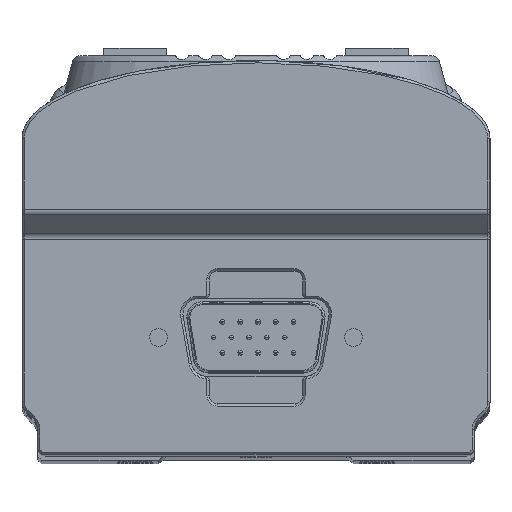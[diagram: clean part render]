
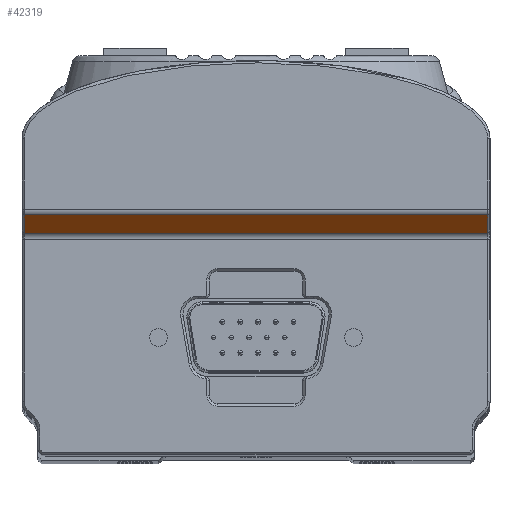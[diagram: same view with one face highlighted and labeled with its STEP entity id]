
A CAD part, top view. The second image highlights one B-rep face of the part: STEP entity #42319.
In plain terms, the highlighted planar face has unit normal (0, -0.707, 0.707).
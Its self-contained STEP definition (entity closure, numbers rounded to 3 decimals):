
#1558 = EDGE_CURVE ( 'NONE', #34784, #38007, #37251, .T. ) ;
#3070 = DIRECTION ( 'NONE',  ( 0., 0.707, 0.707 ) ) ;
#3770 = DIRECTION ( 'NONE',  ( 0., -0.707, -0.707 ) ) ;
#7903 = VERTEX_POINT ( 'NONE', #30426 ) ;
#8154 = PLANE ( 'NONE',  #35073 ) ;
#9433 = CARTESIAN_POINT ( 'NONE',  ( -29.7, 21.448, 270. ) ) ;
#11075 = VECTOR ( 'NONE', #15310, 1000. ) ;
#11380 = VERTEX_POINT ( 'NONE', #25155 ) ;
#14566 = ORIENTED_EDGE ( 'NONE', *, *, #53159, .T. ) ;
#15310 = DIRECTION ( 'NONE',  ( 1., 0., 0. ) ) ;
#15630 = DIRECTION ( 'NONE',  ( -1., 0., 0. ) ) ;
#18396 = ORIENTED_EDGE ( 'NONE', *, *, #40686, .T. ) ;
#19059 = VECTOR ( 'NONE', #15630, 1000. ) ;
#22291 = CARTESIAN_POINT ( 'NONE',  ( -29.7, 18.741, 267.293 ) ) ;
#25080 = EDGE_LOOP ( 'NONE', ( #55878, #18396, #14566, #33483 ) ) ;
#25116 = LINE ( 'NONE', #42799, #50705 ) ;
#25155 = CARTESIAN_POINT ( 'NONE',  ( -29.7, 21.155, 269.707 ) ) ;
#25818 = CARTESIAN_POINT ( 'NONE',  ( 30., 21.448, 270. ) ) ;
#27086 = DIRECTION ( 'NONE',  ( 0., -0.707, -0.707 ) ) ;
#27376 = CARTESIAN_POINT ( 'NONE',  ( 29.7, 18.741, 267.293 ) ) ;
#30426 = CARTESIAN_POINT ( 'NONE',  ( 29.7, 21.155, 269.707 ) ) ;
#33483 = ORIENTED_EDGE ( 'NONE', *, *, #37986, .T. ) ;
#34784 = VERTEX_POINT ( 'NONE', #22291 ) ;
#35073 = AXIS2_PLACEMENT_3D ( 'NONE', #25818, #43511, #3770 ) ;
#37251 = LINE ( 'NONE', #54972, #11075 ) ;
#37579 = LINE ( 'NONE', #55303, #19059 ) ;
#37986 = EDGE_CURVE ( 'NONE', #11380, #34784, #49130, .T. ) ;
#38007 = VERTEX_POINT ( 'NONE', #27376 ) ;
#40686 = EDGE_CURVE ( 'NONE', #38007, #7903, #25116, .T. ) ;
#42319 = ADVANCED_FACE ( 'NONE', ( #47851 ), #8154, .F. ) ;
#42799 = CARTESIAN_POINT ( 'NONE',  ( 29.7, 21.448, 270. ) ) ;
#43511 = DIRECTION ( 'NONE',  ( 0., 0.707, -0.707 ) ) ;
#45839 = VECTOR ( 'NONE', #27086, 1000. ) ;
#47851 = FACE_OUTER_BOUND ( 'NONE', #25080, .T. ) ;
#49130 = LINE ( 'NONE', #9433, #45839 ) ;
#50705 = VECTOR ( 'NONE', #3070, 1000. ) ;
#53159 = EDGE_CURVE ( 'NONE', #7903, #11380, #37579, .T. ) ;
#54972 = CARTESIAN_POINT ( 'NONE',  ( 30., 18.741, 267.293 ) ) ;
#55303 = CARTESIAN_POINT ( 'NONE',  ( 30., 21.155, 269.707 ) ) ;
#55878 = ORIENTED_EDGE ( 'NONE', *, *, #1558, .T. ) ;
